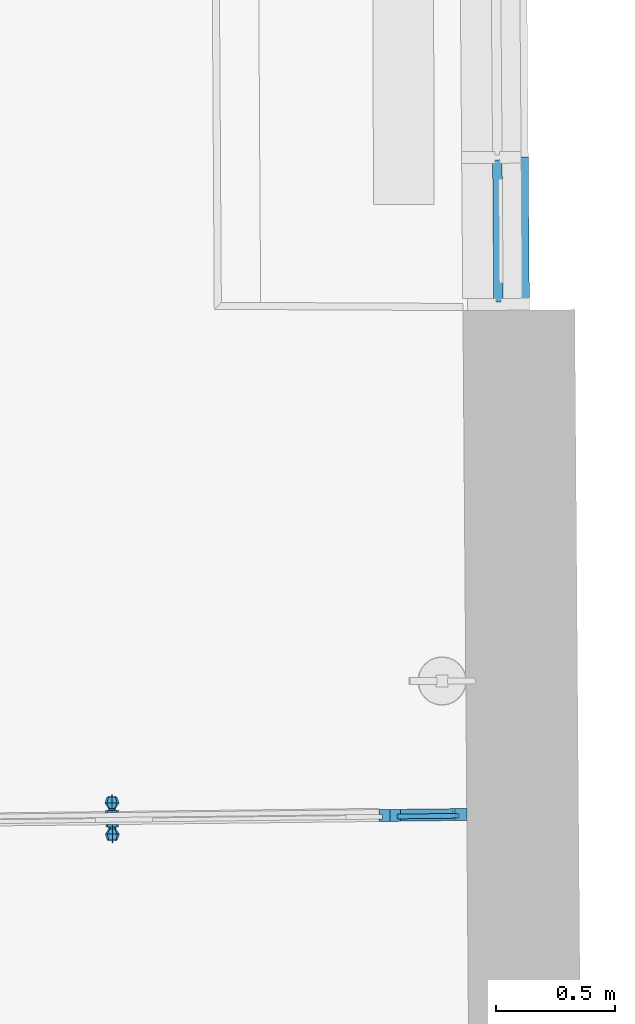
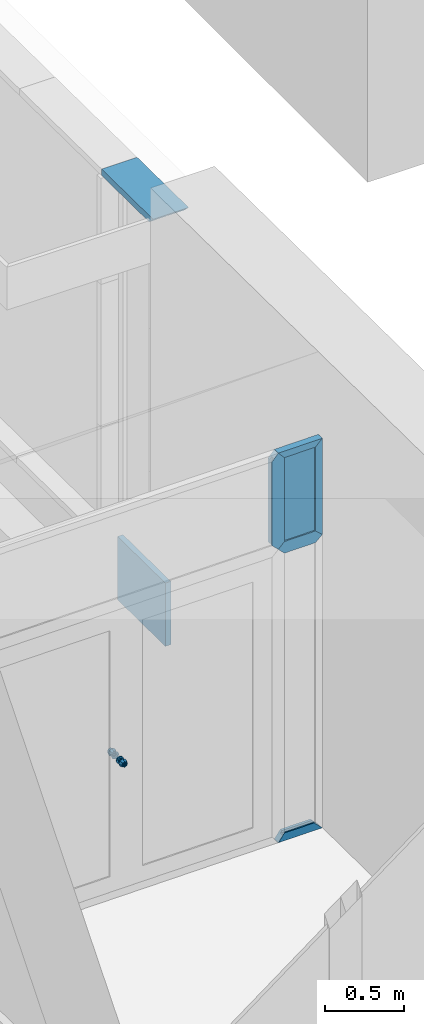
# One storey, part 158 of 196: 9 building element parts, 2 elements without a shape of their own.
"""IFC2X3 building model written with IfcOpenShell, lengths in metres."""

from ifc_helpers import new_model, entity, si_unit, converted_unit, derived_unit, money_unit, direction, frame, origin_with_axes, place, context, subcontext, project, spatial, open_shell, faceted_brep, surface_model, material, type_object, element, aggregate, save


model = new_model("IFC2X3")

# Units and contexts
model_context = context("Model", 3, precision=1e-05, world=origin_with_axes(), true_north=direction((0.0, 1.0)))
body_context = subcontext(model_context, "Body", "Model", "MODEL_VIEW")
ifc_project = project(units=[si_unit("LENGTHUNIT", "METRE"), si_unit("AREAUNIT", "SQUARE_METRE"), si_unit("VOLUMEUNIT", "CUBIC_METRE"), converted_unit("PLANEANGLEUNIT", "DEGREE", entity("IfcPlaneAngleMeasure", 0.0174532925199), si_unit("PLANEANGLEUNIT", "RADIAN"), dimensions=[0, 0, 0, 0, 0, 0, 0]), money_unit("EUR"), converted_unit("TIMEUNIT", "Year", entity("IfcTimeMeasure", 31556926.0), si_unit("TIMEUNIT", "SECOND"), dimensions=[0, 0, 1, 0, 0, 0, 0]), si_unit("MASSUNIT", "GRAM", prefix="KILO"), si_unit("THERMODYNAMICTEMPERATUREUNIT", "DEGREE_CELSIUS"), si_unit("LUMINOUSINTENSITYUNIT", "LUMEN"), si_unit("ENERGYUNIT", "JOULE", prefix="MEGA"), derived_unit("THERMALCONDUCTANCEUNIT", [(si_unit("POWERUNIT", "WATT"), 1), (si_unit("LENGTHUNIT", "METRE"), -1), (si_unit("THERMODYNAMICTEMPERATUREUNIT", "KELVIN"), -1)]), derived_unit("SPECIFICHEATCAPACITYUNIT", [(si_unit("ENERGYUNIT", "JOULE"), 1), (si_unit("MASSUNIT", "GRAM", prefix="KILO"), -1), (si_unit("THERMODYNAMICTEMPERATUREUNIT", "KELVIN"), -1)]), derived_unit("MASSDENSITYUNIT", [(si_unit("MASSUNIT", "GRAM", prefix="KILO"), 1), (si_unit("VOLUMEUNIT", "CUBIC_METRE"), -1)])], contexts=[model_context])

# Site, building, storey
site_placement = place(None, origin_with_axes())
site = spatial("IfcSite", under=ifc_project, at=site_placement, Name="Gelände", CompositionType="ELEMENT")
building_placement = place(site_placement, origin_with_axes())
building = spatial("IfcBuilding", under=site, at=building_placement, Name="Gebäude", CompositionType="ELEMENT")
storey_placement = place(building_placement, frame((0.0, 0.0, -3.0), z_axis=(0.0, 0.0, 1.0), x_axis=(1.0, 0.0, 0.0)))
storey = spatial("IfcBuildingStorey", under=building, at=storey_placement, Name="KELLERGESCHOSS", CompositionType="ELEMENT", Elevation=-3.0)

# Proxy, building element parts
building_element_proxy_type = type_object("IfcBuildingElementProxyType", Name="Fassadentyp", PredefinedType="NOTDEFINED")
proxy_1_placement = place(storey_placement, frame((-17.1540826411, 42.3223141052, 0.417602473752), z_axis=(0.0, 0.0, 1.0), x_axis=(1.0, 0.0, 0.0)))
proxy_1 = element("IfcBuildingElementProxy", 1, at=proxy_1_placement, inside=storey, type_object=building_element_proxy_type, Name="Fassade-002")
ifc_material_1 = material(Name="54_Metall, Edelstahl")
building_element_part_1_placement = place(proxy_1_placement, origin_with_axes())
building_element_part_1 = element("IfcBuildingElementPart", 2, at=building_element_part_1_placement, material=ifc_material_1, Name="54_Metall, Edelstahl", context=body_context, shape_type="SurfaceModel", body=[
    surface_model("IfcShellBasedSurfaceModel", [(-0.0410000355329, -0.0856988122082, 1.06800001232), (-0.0374737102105, -0.0877197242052, 1.07150244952), (-0.0489753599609, -0.0878543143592, 1.07626691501), (-0.0489994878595, -0.085792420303, 1.07131372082), (-0.0376865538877, -0.0856600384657, 1.06000001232), (-0.0327095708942, -0.087663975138, 1.06000001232), (-0.0339920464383, -0.0856285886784, 1.07500834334), (-0.04899935, -0.0858042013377, 1.0812249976), (-0.0604770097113, -0.0879889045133, 1.07150244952), (-0.056998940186, -0.0858860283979, 1.06800001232), (-0.0603124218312, -0.0859248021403, 1.06000001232), (-0.056998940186, -0.0858860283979, 1.05200001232), (-0.0489994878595, -0.085792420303, 1.04868630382), (-0.0410000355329, -0.0856988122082, 1.05200001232), (-0.0374737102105, -0.0877197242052, 1.04849757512), (-0.0277758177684, -0.0855558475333, 1.06000001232), (-0.0282520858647, -0.0604119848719, 1.08104297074), (-0.0492936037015, -0.0606582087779, 1.08975924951), (-0.0640066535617, -0.0859798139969, 1.07500834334), (-0.0652411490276, -0.0880446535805, 1.06000001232), (-0.0604770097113, -0.0879889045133, 1.04849757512), (-0.0489753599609, -0.0878543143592, 1.04373310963), (-0.0339920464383, -0.0856285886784, 1.0449916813), (-0.0195364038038, -0.0603099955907, 1.06000001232), (-0.0389460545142, -0.0384583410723, 1.07060661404), (-0.0495519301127, -0.0385824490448, 1.07500001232), (-0.0703351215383, -0.0609044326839, 1.08104297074), (-0.0702228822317, -0.0860525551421, 1.06000001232), (-0.0640066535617, -0.0859798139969, 1.0449916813), (-0.04899935, -0.0858042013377, 1.03877502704), (-0.0282520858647, -0.0604119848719, 1.0389570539), (-0.0345529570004, -0.0384069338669, 1.06000001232), (-0.0389462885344, -0.0384383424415, 1.07060661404), (-0.0495521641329, -0.0385624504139, 1.07500001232), (-0.0601578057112, -0.0387065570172, 1.07060661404), (-0.0790508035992, -0.0610064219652, 1.06000001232), (-0.0703351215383, -0.0609044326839, 1.0389570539), (-0.0492936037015, -0.0606582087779, 1.03024077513), (-0.0389460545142, -0.0384583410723, 1.0493934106), (-0.0345531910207, -0.0383869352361, 1.06000001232), (-0.0390384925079, -0.0305588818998, 1.07060661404), (-0.0496443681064, -0.0306829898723, 1.07500001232), (-0.0601580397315, -0.0386865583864, 1.07060661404), (-0.064550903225, -0.0387579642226, 1.06000001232), (-0.0601578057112, -0.0387065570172, 1.0493934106), (-0.0495519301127, -0.0385824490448, 1.04500001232), (-0.0389462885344, -0.0384383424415, 1.0493934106), (-0.0346453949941, -0.0305074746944, 1.06000001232), (-0.039039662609, -0.0304588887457, 1.07060661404), (-0.0496455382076, -0.0305829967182, 1.07500001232), (-0.0602502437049, -0.0308070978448, 1.07060661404), (-0.0645511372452, -0.0387379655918, 1.06000001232), (-0.0601580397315, -0.0386865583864, 1.0493934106), (-0.0495521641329, -0.0385624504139, 1.04500001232), (-0.0390384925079, -0.0305588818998, 1.0493934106), (-0.0346465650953, -0.0304074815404, 1.06000001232), (-0.0389689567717, -0.0304580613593, 1.07067732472), (-0.0496455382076, -0.0305829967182, 1.07510001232), (-0.0602514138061, -0.0307071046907, 1.07060661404), (-0.0646433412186, -0.0308585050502, 1.06000001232), (-0.0602502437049, -0.0308070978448, 1.0493934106), (-0.0496443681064, -0.0306829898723, 1.04500001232), (-0.039039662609, -0.0304588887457, 1.0493934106), (-0.0345465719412, -0.0304063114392, 1.06000001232), (-0.0306256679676, -0.0303604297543, 1.07902118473), (-0.0496455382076, -0.0305829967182, 1.08690001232), (-0.0603221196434, -0.0307079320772, 1.07067732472), (-0.0646445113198, -0.0307585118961, 1.06000001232), (-0.0602514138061, -0.0307071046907, 1.0493934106), (-0.0496455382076, -0.0305829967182, 1.04500001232), (-0.0389689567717, -0.0304580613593, 1.04932269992), (-0.0227473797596, -0.0302682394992, 1.06000001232), (-0.0305549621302, -0.0303596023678, 1.07909189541), (-0.0496455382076, -0.0305829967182, 1.08700001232), (-0.0686654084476, -0.0308055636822, 1.07902118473), (-0.0647445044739, -0.0307596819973, 1.06000001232), (-0.0603221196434, -0.0307079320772, 1.04932269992), (-0.0496455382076, -0.0305829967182, 1.04490001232), (-0.0306256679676, -0.0303604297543, 1.04097883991), (-0.0226473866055, -0.0302670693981, 1.06000001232), (-0.0305561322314, -0.0302596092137, 1.07909189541), (-0.0496467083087, -0.0304830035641, 1.08700001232), (-0.0687361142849, -0.0308063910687, 1.07909189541), (-0.0765436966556, -0.0308977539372, 1.06000001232), (-0.0686654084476, -0.0308055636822, 1.04097883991), (-0.0496455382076, -0.0305829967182, 1.03310001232), (-0.0305549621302, -0.0303596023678, 1.04090812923), (-0.0226485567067, -0.030167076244, 1.06000001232), (-0.0306719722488, -0.0203602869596, 1.07909189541), (-0.0497625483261, -0.02058368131, 1.08700001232), (-0.0687372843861, -0.0307063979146, 1.07909189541), (-0.0766436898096, -0.0308989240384, 1.06000001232), (-0.0687361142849, -0.0308063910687, 1.04090812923), (-0.0496455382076, -0.0305829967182, 1.03300001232), (-0.0305561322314, -0.0302596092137, 1.04090812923), (-0.0227643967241, -0.0202677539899, 1.06000001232), (-0.0688531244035, -0.0208070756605, 1.07909189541), (-0.0766448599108, -0.0307989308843, 1.06000001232), (-0.0687372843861, -0.0307063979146, 1.04090812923), (-0.0496467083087, -0.0304830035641, 1.03300001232), (-0.0306719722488, -0.0203602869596, 1.04090812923), (-0.0767606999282, -0.0208996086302, 1.06000001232), (-0.0688531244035, -0.0208070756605, 1.04090812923), (-0.0497625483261, -0.02058368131, 1.03300001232)], [open_shell([[[0, 1, 2, 3]], [[4, 5, 1, 0]], [[1, 6, 7, 2]], [[3, 2, 8, 9]], [[3, 9, 10, 11, 12, 13, 4, 0]], [[13, 14, 5, 4]], [[5, 15, 6, 1]], [[6, 16, 17, 7]], [[2, 7, 18, 8]], [[9, 8, 19, 10]], [[10, 19, 20, 11]], [[11, 20, 21, 12]], [[12, 21, 14, 13]], [[14, 22, 15, 5]], [[15, 23, 16, 6]], [[16, 24, 25, 17]], [[7, 17, 26, 18]], [[8, 18, 27, 19]], [[19, 27, 28, 20]], [[20, 28, 29, 21]], [[21, 29, 22, 14]], [[22, 30, 23, 15]], [[23, 31, 24, 16]], [[24, 32, 33, 25]], [[17, 25, 34, 26]], [[18, 26, 35, 27]], [[27, 35, 36, 28]], [[28, 36, 37, 29]], [[29, 37, 30, 22]], [[30, 38, 31, 23]], [[31, 39, 32, 24]], [[32, 40, 41, 33]], [[25, 33, 42, 34]], [[26, 34, 43, 35]], [[35, 43, 44, 36]], [[36, 44, 45, 37]], [[37, 45, 38, 30]], [[38, 46, 39, 31]], [[39, 47, 40, 32]], [[40, 48, 49, 41]], [[33, 41, 50, 42]], [[34, 42, 51, 43]], [[43, 51, 52, 44]], [[44, 52, 53, 45]], [[45, 53, 46, 38]], [[46, 54, 47, 39]], [[47, 55, 48, 40]], [[48, 56, 57, 49]], [[41, 49, 58, 50]], [[42, 50, 59, 51]], [[51, 59, 60, 52]], [[52, 60, 61, 53]], [[53, 61, 54, 46]], [[54, 62, 55, 47]], [[55, 63, 56, 48]], [[56, 64, 65, 57]], [[49, 57, 66, 58]], [[50, 58, 67, 59]], [[59, 67, 68, 60]], [[60, 68, 69, 61]], [[61, 69, 62, 54]], [[62, 70, 63, 55]], [[63, 71, 64, 56]], [[64, 72, 73, 65]], [[57, 65, 74, 66]], [[58, 66, 75, 67]], [[67, 75, 76, 68]], [[68, 76, 77, 69]], [[69, 77, 70, 62]], [[70, 78, 71, 63]], [[71, 79, 72, 64]], [[72, 80, 81, 73]], [[65, 73, 82, 74]], [[66, 74, 83, 75]], [[75, 83, 84, 76]], [[76, 84, 85, 77]], [[77, 85, 78, 70]], [[78, 86, 79, 71]], [[79, 87, 80, 72]], [[80, 88, 89, 81]], [[73, 81, 90, 82]], [[74, 82, 91, 83]], [[83, 91, 92, 84]], [[84, 92, 93, 85]], [[85, 93, 86, 78]], [[86, 94, 87, 79]], [[87, 95, 88, 80]], [[81, 89, 96, 90]], [[82, 90, 97, 91]], [[91, 97, 98, 92]], [[92, 98, 99, 93]], [[93, 99, 94, 86]], [[94, 100, 95, 87]], [[90, 96, 101, 97]], [[97, 101, 102, 98]], [[98, 102, 103, 99]], [[99, 103, 100, 94]]])]),
    faceted_brep([(-0.0564236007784, -0.0858792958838, 1.05257539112), (-0.059498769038, -0.0859152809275, 1.06000001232), (-0.0564236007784, -0.0858792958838, 1.06742463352), (-0.0489994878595, -0.085792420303, 1.07050001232), (-0.0415753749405, -0.0857055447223, 1.06742463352), (-0.0385002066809, -0.0856695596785, 1.06000001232), (-0.0415753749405, -0.0857055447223, 1.05257539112), (-0.0489994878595, -0.085792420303, 1.04950001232), (-0.0564060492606, -0.087379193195, 1.05257539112), (-0.0594812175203, -0.0874151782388, 1.06000001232), (-0.0564060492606, -0.087379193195, 1.06742463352), (-0.0489819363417, -0.0872923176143, 1.07050001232), (-0.0415578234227, -0.0872054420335, 1.06742463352), (-0.0384826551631, -0.0871694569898, 1.06000001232), (-0.0415578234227, -0.0872054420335, 1.05257539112), (-0.0489819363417, -0.0872923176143, 1.04950001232)], [[[0, 1, 2, 3, 4, 5, 6, 7]], [[0, 8, 9, 1]], [[1, 9, 10, 2]], [[2, 10, 11, 3]], [[3, 11, 12, 4]], [[4, 12, 13, 5]], [[5, 13, 14, 6]], [[6, 14, 15, 7]], [[7, 15, 8, 0]], [[8, 15, 14, 13, 12, 11, 10, 9]]]),
    faceted_brep([(-0.0504818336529, -0.087309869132, 1.05000001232), (-0.0474820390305, -0.0872747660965, 1.05000001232), (-0.0473993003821, -0.0943453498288, 1.05292894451), (-0.0503990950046, -0.0943804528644, 1.05292894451), (-0.0504818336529, -0.087309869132, 1.07000001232), (-0.0474820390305, -0.0872747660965, 1.07000001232), (-0.0473993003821, -0.0943453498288, 1.06707108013), (-0.0473650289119, -0.0972740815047, 1.06000001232), (-0.0503648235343, -0.0973091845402, 1.06000001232), (-0.0503990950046, -0.0943804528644, 1.06707108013)], [[[0, 1, 2, 3]], [[4, 5, 1, 0]], [[1, 5, 6, 7, 2]], [[3, 2, 7, 8]], [[0, 3, 8, 9, 4]], [[9, 6, 5, 4]], [[8, 7, 6, 9]]]),
    surface_model("IfcShellBasedSurfaceModel", [(-0.0431112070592, 0.0947152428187, 1.06800001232), (-0.0511106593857, 0.0946216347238, 1.07131372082), (-0.0511347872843, 0.09668352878, 1.07626691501), (-0.0396331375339, 0.0968181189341, 1.07150244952), (-0.0397977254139, 0.0947540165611, 1.06000001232), (-0.0431112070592, 0.0947152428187, 1.05200001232), (-0.0511106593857, 0.0946216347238, 1.04868630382), (-0.0591101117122, 0.094528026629, 1.05200001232), (-0.0624235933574, 0.0944892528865, 1.06000001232), (-0.0591101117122, 0.094528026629, 1.06800001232), (-0.0626364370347, 0.096548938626, 1.07150244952), (-0.0511107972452, 0.0946334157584, 1.0812249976), (-0.0361034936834, 0.0948090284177, 1.07500834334), (-0.0348689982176, 0.0968738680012, 1.06000001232), (-0.0396331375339, 0.0968181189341, 1.04849757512), (-0.0511347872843, 0.09668352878, 1.04373310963), (-0.0626364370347, 0.096548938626, 1.04849757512), (-0.067400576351, 0.0964931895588, 1.06000001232), (-0.0661181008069, 0.0944578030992, 1.07500834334), (-0.0508165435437, 0.0694874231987, 1.08975924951), (-0.0297750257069, 0.0697336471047, 1.08104297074), (-0.0298872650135, 0.0948817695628, 1.06000001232), (-0.0361034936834, 0.0948090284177, 1.0449916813), (-0.0511107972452, 0.0946334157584, 1.03877502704), (-0.0661181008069, 0.0944578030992, 1.0449916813), (-0.0723343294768, 0.094385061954, 1.06000001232), (-0.0718580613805, 0.0692411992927, 1.08104297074), (-0.0505582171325, 0.0474116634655, 1.07500001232), (-0.0399523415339, 0.047535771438, 1.07060661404), (-0.021059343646, 0.069835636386, 1.06000001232), (-0.0297750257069, 0.0697336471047, 1.0389570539), (-0.0508165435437, 0.0694874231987, 1.03024077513), (-0.0718580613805, 0.0692411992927, 1.0389570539), (-0.0805737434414, 0.0691392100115, 1.06000001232), (-0.061164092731, 0.0472875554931, 1.07060661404), (-0.0505579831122, 0.0473916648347, 1.07500001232), (-0.0399521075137, 0.0475157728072, 1.07060661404), (-0.0355592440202, 0.0475871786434, 1.06000001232), (-0.0399523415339, 0.047535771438, 1.0493934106), (-0.0505582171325, 0.0474116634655, 1.04500001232), (-0.061164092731, 0.0472875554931, 1.0493934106), (-0.0655571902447, 0.0472361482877, 1.06000001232), (-0.0611638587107, 0.0472675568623, 1.07060661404), (-0.0504657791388, 0.0395122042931, 1.07500001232), (-0.0398599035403, 0.0396363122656, 1.07060661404), (-0.03555901, 0.0475671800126, 1.06000001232), (-0.0399521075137, 0.0475157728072, 1.0493934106), (-0.0505579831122, 0.0473916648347, 1.04500001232), (-0.0611638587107, 0.0472675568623, 1.0493934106), (-0.0655569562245, 0.0472161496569, 1.06000001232), (-0.0610716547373, 0.0393880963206, 1.07060661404), (-0.0504646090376, 0.039412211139, 1.07500001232), (-0.0398587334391, 0.0395363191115, 1.07060661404), (-0.0354668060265, 0.0396877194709, 1.06000001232), (-0.0398599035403, 0.0396363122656, 1.0493934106), (-0.0504657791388, 0.0395122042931, 1.04500001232), (-0.0610716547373, 0.0393880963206, 1.0493934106), (-0.065464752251, 0.0393366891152, 1.06000001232), (-0.0610704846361, 0.0392881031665, 1.07060661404), (-0.0504646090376, 0.039412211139, 1.07510001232), (-0.0397880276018, 0.039537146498, 1.07067732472), (-0.0354656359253, 0.0395877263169, 1.06000001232), (-0.0398587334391, 0.0395363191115, 1.0493934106), (-0.0504646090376, 0.039412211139, 1.04500001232), (-0.0610704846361, 0.0392881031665, 1.0493934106), (-0.0654635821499, 0.0392366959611, 1.06000001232), (-0.0611411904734, 0.0392872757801, 1.07067732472), (-0.0504646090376, 0.039412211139, 1.08690001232), (-0.0314447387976, 0.039634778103, 1.07902118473), (-0.0353656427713, 0.0395888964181, 1.06000001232), (-0.0397880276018, 0.039537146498, 1.04932269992), (-0.0504646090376, 0.039412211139, 1.04490001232), (-0.0611411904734, 0.0392872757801, 1.04932269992), (-0.0655635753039, 0.03923552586, 1.06000001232), (-0.0694844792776, 0.039189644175, 1.07902118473), (-0.0504646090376, 0.039412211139, 1.08700001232), (-0.0313740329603, 0.0396356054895, 1.07909189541), (-0.0235664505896, 0.039726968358, 1.06000001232), (-0.0314447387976, 0.039634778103, 1.04097883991), (-0.0504646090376, 0.039412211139, 1.03310001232), (-0.0694844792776, 0.039189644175, 1.04097883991), (-0.0773627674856, 0.03909745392, 1.06000001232), (-0.0695551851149, 0.0391888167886, 1.07909189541), (-0.0504634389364, 0.0393122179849, 1.08700001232), (-0.0313728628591, 0.0395356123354, 1.07909189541), (-0.0234664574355, 0.0397281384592, 1.06000001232), (-0.0313740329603, 0.0396356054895, 1.04090812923), (-0.0504646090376, 0.039412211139, 1.03300001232), (-0.0695551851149, 0.0391888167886, 1.04090812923), (-0.0774627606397, 0.0390962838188, 1.06000001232), (-0.0695540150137, 0.0390888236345, 1.07909189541), (-0.050347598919, 0.0294128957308, 1.08700001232), (-0.0312570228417, 0.0296362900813, 1.07909189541), (-0.0234652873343, 0.0396281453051, 1.06000001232), (-0.0313728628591, 0.0395356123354, 1.04090812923), (-0.0504634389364, 0.0393122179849, 1.03300001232), (-0.0695540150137, 0.0390888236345, 1.04090812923), (-0.0774615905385, 0.0389962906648, 1.06000001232), (-0.0694381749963, 0.0291895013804, 1.07909189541), (-0.023349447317, 0.029728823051, 1.06000001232), (-0.0312570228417, 0.0296362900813, 1.04090812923), (-0.050347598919, 0.0294128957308, 1.03300001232), (-0.0694381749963, 0.0291895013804, 1.04090812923), (-0.0773457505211, 0.0290969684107, 1.06000001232)], [open_shell([[[0, 1, 2, 3]], [[1, 0, 4, 5, 6, 7, 8, 9]], [[1, 9, 10, 2]], [[3, 2, 11, 12]], [[4, 0, 3, 13]], [[5, 4, 13, 14]], [[6, 5, 14, 15]], [[7, 6, 15, 16]], [[8, 7, 16, 17]], [[9, 8, 17, 10]], [[2, 10, 18, 11]], [[12, 11, 19, 20]], [[13, 3, 12, 21]], [[14, 13, 21, 22]], [[15, 14, 22, 23]], [[16, 15, 23, 24]], [[17, 16, 24, 25]], [[10, 17, 25, 18]], [[11, 18, 26, 19]], [[20, 19, 27, 28]], [[21, 12, 20, 29]], [[22, 21, 29, 30]], [[23, 22, 30, 31]], [[24, 23, 31, 32]], [[25, 24, 32, 33]], [[18, 25, 33, 26]], [[19, 26, 34, 27]], [[28, 27, 35, 36]], [[29, 20, 28, 37]], [[30, 29, 37, 38]], [[31, 30, 38, 39]], [[32, 31, 39, 40]], [[33, 32, 40, 41]], [[26, 33, 41, 34]], [[27, 34, 42, 35]], [[36, 35, 43, 44]], [[37, 28, 36, 45]], [[38, 37, 45, 46]], [[39, 38, 46, 47]], [[40, 39, 47, 48]], [[41, 40, 48, 49]], [[34, 41, 49, 42]], [[35, 42, 50, 43]], [[44, 43, 51, 52]], [[45, 36, 44, 53]], [[46, 45, 53, 54]], [[47, 46, 54, 55]], [[48, 47, 55, 56]], [[49, 48, 56, 57]], [[42, 49, 57, 50]], [[43, 50, 58, 51]], [[52, 51, 59, 60]], [[53, 44, 52, 61]], [[54, 53, 61, 62]], [[55, 54, 62, 63]], [[56, 55, 63, 64]], [[57, 56, 64, 65]], [[50, 57, 65, 58]], [[51, 58, 66, 59]], [[60, 59, 67, 68]], [[61, 52, 60, 69]], [[62, 61, 69, 70]], [[63, 62, 70, 71]], [[64, 63, 71, 72]], [[65, 64, 72, 73]], [[58, 65, 73, 66]], [[59, 66, 74, 67]], [[68, 67, 75, 76]], [[69, 60, 68, 77]], [[70, 69, 77, 78]], [[71, 70, 78, 79]], [[72, 71, 79, 80]], [[73, 72, 80, 81]], [[66, 73, 81, 74]], [[67, 74, 82, 75]], [[76, 75, 83, 84]], [[77, 68, 76, 85]], [[78, 77, 85, 86]], [[79, 78, 86, 87]], [[80, 79, 87, 88]], [[81, 80, 88, 89]], [[74, 81, 89, 82]], [[75, 82, 90, 83]], [[84, 83, 91, 92]], [[85, 76, 84, 93]], [[86, 85, 93, 94]], [[87, 86, 94, 95]], [[88, 87, 95, 96]], [[89, 88, 96, 97]], [[82, 89, 97, 90]], [[83, 90, 98, 91]], [[93, 84, 92, 99]], [[94, 93, 99, 100]], [[95, 94, 100, 101]], [[96, 95, 101, 102]], [[97, 96, 102, 103]], [[90, 97, 103, 98]]])]),
    faceted_brep([(-0.0585347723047, 0.0945347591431, 1.05257539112), (-0.0511106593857, 0.0946216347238, 1.04950001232), (-0.0436865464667, 0.0947085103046, 1.05257539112), (-0.0406113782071, 0.0947444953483, 1.06000001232), (-0.0436865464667, 0.0947085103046, 1.06742463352), (-0.0511106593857, 0.0946216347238, 1.07050001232), (-0.0585347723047, 0.0945347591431, 1.06742463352), (-0.0616099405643, 0.0944987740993, 1.06000001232), (-0.0585523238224, 0.0960346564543, 1.05257539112), (-0.0511282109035, 0.096121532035, 1.04950001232), (-0.0437040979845, 0.0962084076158, 1.05257539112), (-0.0406289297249, 0.0962443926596, 1.06000001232), (-0.0437040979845, 0.0962084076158, 1.06742463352), (-0.0511282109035, 0.096121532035, 1.07050001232), (-0.0585523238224, 0.0960346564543, 1.06742463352), (-0.0616274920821, 0.0959986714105, 1.06000001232)], [[[0, 1, 2, 3, 4, 5, 6, 7]], [[1, 0, 8, 9]], [[2, 1, 9, 10]], [[3, 2, 10, 11]], [[4, 3, 11, 12]], [[5, 4, 12, 13]], [[6, 5, 13, 14]], [[7, 6, 14, 15]], [[0, 7, 15, 8]], [[8, 15, 14, 13, 12, 11, 10, 9]]]),
    faceted_brep([(-0.0526281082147, 0.0961039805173, 1.05000001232), (-0.052710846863, 0.10317456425, 1.05292894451), (-0.0497110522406, 0.103209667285, 1.05292894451), (-0.0496283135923, 0.0961390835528, 1.05000001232), (-0.0526281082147, 0.0961039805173, 1.07000001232), (-0.052710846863, 0.10317456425, 1.06707108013), (-0.0527451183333, 0.106103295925, 1.06000001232), (-0.0497453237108, 0.106138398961, 1.06000001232), (-0.0497110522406, 0.103209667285, 1.06707108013), (-0.0496283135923, 0.0961390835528, 1.07000001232)], [[[0, 1, 2, 3]], [[0, 4, 5, 6, 1]], [[1, 6, 7, 2]], [[3, 2, 7, 8, 9]], [[4, 0, 3, 9]], [[5, 4, 9, 8]], [[6, 5, 8, 7]]]),
])
ifc_material_2 = material(Name="45_Glas, Normalglas")
building_element_part_2_placement = place(proxy_1_placement, origin_with_axes())
building_element_part_2 = element("IfcBuildingElementPart", 3, at=building_element_part_2_placement, material=ifc_material_2, Name="45_Glas, Normalglas", context=body_context, shape_type="Brep", body=[
    faceted_brep([(1.40511022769, 0.0264430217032, 2.96999995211), (1.14659813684, 0.0234179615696, 2.96999995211), (1.14683215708, 0.00341933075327, 2.96999995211), (1.40534424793, 0.00644439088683, 2.96999995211), (1.40511022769, 0.0264430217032, 2.29267449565), (1.14659813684, 0.0234179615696, 2.29267449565), (1.14683215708, 0.00341933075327, 2.29267449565), (1.40534424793, 0.00644439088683, 2.29267449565)], [[[0, 1, 2, 3]], [[0, 4, 5, 1]], [[1, 5, 6, 2]], [[3, 2, 6, 7]], [[4, 0, 3, 7]], [[5, 4, 7, 6]]]),
])
ifc_material_3 = material(Name="53_Metall, Aluminium")
building_element_part_3_placement = place(proxy_1_placement, origin_with_axes())
building_element_part_3 = element("IfcBuildingElementPart", 4, at=building_element_part_3_placement, material=ifc_material_3, Name="53_Metall, Aluminium", context=body_context, shape_type="Brep", body=[
    faceted_brep([(1.39511091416, 0.0263260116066, 0.045), (1.3953449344, 0.00632738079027, 0.045), (1.38034596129, 0.0061518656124, 0.06), (1.38046297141, -0.00384744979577, 0.06), (1.44045886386, -0.00314538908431, 0.0), (1.43987381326, 0.0468511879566, 0.0), (1.37987792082, 0.0461491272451, 0.06), (1.38011194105, 0.0261504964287, 0.06), (1.15034788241, 0.0234618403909, 0.045), (1.15058190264, 0.00346320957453, 0.045), (1.16183113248, 0.00359484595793, 0.06), (1.1619481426, -0.00640446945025, 0.06), (1.11695122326, -0.00693101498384, 0.0), (1.11636617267, 0.043065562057, 0.0), (1.161363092, 0.0435921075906, 0.06), (1.16159711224, 0.0235934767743, 0.06)], [[[0, 1, 2, 3, 4, 5, 6, 7]], [[1, 0, 8, 9]], [[10, 2, 1, 9]], [[2, 10, 11, 3]], [[4, 3, 11, 12]], [[5, 4, 12, 13]], [[6, 5, 13, 14]], [[15, 7, 6, 14]], [[0, 7, 15, 8]], [[8, 15, 14, 13, 12, 11, 10, 9]]]),
])
building_element_part_4_placement = place(proxy_1_placement, origin_with_axes())
building_element_part_4 = element("IfcBuildingElementPart", 5, at=building_element_part_4_placement, material=ifc_material_3, Name="53_Metall, Aluminium", context=body_context, shape_type="Brep", body=[
    faceted_brep([(1.40511022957, 0.0264430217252, 2.96999995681), (1.40534424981, 0.00644439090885, 2.96999995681), (1.3903452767, 0.00626887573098, 2.95499995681), (1.39046228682, -0.00373043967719, 2.95499995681), (1.44045886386, -0.00314538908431, 3.00499995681), (1.43987381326, 0.0468511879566, 3.00499995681), (1.38987723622, 0.0462661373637, 2.95499995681), (1.39011125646, 0.0262675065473, 2.95499995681), (1.40511022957, 0.0264430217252, 2.29417449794), (1.40534424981, 0.00644439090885, 2.29417449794), (1.3903452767, 0.00626887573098, 2.30767449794), (1.39046228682, -0.00373043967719, 2.30767449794), (1.44045886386, -0.00314538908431, 2.26267449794), (1.43987381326, 0.0468511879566, 2.26267449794), (1.38987723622, 0.0462661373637, 2.30767449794), (1.39011125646, 0.0262675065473, 2.30767449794)], [[[0, 1, 2, 3, 4, 5, 6, 7]], [[1, 0, 8, 9]], [[10, 2, 1, 9]], [[2, 10, 11, 3]], [[12, 4, 3, 11]], [[13, 5, 4, 12]], [[14, 6, 5, 13]], [[15, 7, 6, 14]], [[0, 7, 15, 8]], [[8, 15, 14, 13, 12, 11, 10, 9]]]),
])
building_element_part_5_placement = place(proxy_1_placement, origin_with_axes())
building_element_part_5 = element("IfcBuildingElementPart", 6, at=building_element_part_5_placement, material=ifc_material_3, Name="53_Metall, Aluminium", context=body_context, shape_type="Brep", body=[
    faceted_brep([(1.40511022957, 0.0264430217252, 2.96999995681), (1.39011125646, 0.0262675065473, 2.95499995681), (1.38987723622, 0.0462661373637, 2.95499995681), (1.43987381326, 0.0468511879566, 3.00499995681), (1.44045886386, -0.00314538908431, 3.00499995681), (1.39046228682, -0.00373043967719, 2.95499995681), (1.3903452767, 0.00626887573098, 2.95499995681), (1.40534424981, 0.00644439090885, 2.96999995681), (1.14809803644, 0.0234355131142, 2.96999995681), (1.16159711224, 0.0235934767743, 2.95499995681), (1.161363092, 0.0435921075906, 2.95499995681), (1.11636617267, 0.043065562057, 3.00499995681), (1.11695122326, -0.00693101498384, 3.00499995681), (1.1619481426, -0.00640446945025, 2.95499995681), (1.16183113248, 0.00359484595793, 2.95499995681), (1.14833205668, 0.00343688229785, 2.96999995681)], [[[0, 1, 2, 3, 4, 5, 6, 7]], [[0, 8, 9, 1]], [[9, 10, 2, 1]], [[2, 10, 11, 3]], [[3, 11, 12, 4]], [[4, 12, 13, 5]], [[6, 5, 13, 14]], [[14, 15, 7, 6]], [[7, 15, 8, 0]], [[8, 15, 14, 13, 12, 11, 10, 9]]]),
])
building_element_part_6_placement = place(proxy_1_placement, origin_with_axes())
building_element_part_6 = element("IfcBuildingElementPart", 7, at=building_element_part_6_placement, material=ifc_material_3, Name="53_Metall, Aluminium", context=body_context, shape_type="Brep", body=[
    faceted_brep([(1.14659813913, 0.0234179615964, 2.97166662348), (1.16159711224, 0.0235934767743, 2.95499995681), (1.161363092, 0.0435921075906, 2.95499995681), (1.11636617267, 0.043065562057, 3.00499995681), (1.11695122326, -0.00693101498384, 3.00499995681), (1.1619481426, -0.00640446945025, 2.95499995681), (1.16183113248, 0.00359484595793, 2.95499995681), (1.14683215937, 0.00341933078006, 2.97166662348), (1.14659813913, 0.0234179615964, 2.29267449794), (1.16159711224, 0.0235934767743, 2.30767449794), (1.161363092, 0.0435921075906, 2.30767449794), (1.11636617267, 0.043065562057, 2.26267449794), (1.07136925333, 0.0425390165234, 2.30767449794), (1.07136925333, 0.0425390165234, 2.95499995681), (1.07160327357, 0.0225403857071, 2.95499995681), (1.08660224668, 0.0227159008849, 2.97166662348), (1.08683626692, 0.0027172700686, 2.97166662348), (1.0718372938, 0.00254175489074, 2.95499995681), (1.07195430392, -0.00745756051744, 2.95499995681), (1.11695122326, -0.00693101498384, 2.26267449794), (1.1619481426, -0.00640446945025, 2.30767449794), (1.07195430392, -0.00745756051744, 2.30767449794), (1.16183113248, 0.00359484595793, 2.30767449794), (1.14683215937, 0.00341933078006, 2.29267449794), (1.0718372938, 0.00254175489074, 2.30767449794), (1.08683626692, 0.0027172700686, 2.29267449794), (1.08660224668, 0.0227159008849, 2.29267449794), (1.07160327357, 0.0225403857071, 2.30767449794)], [[[0, 1, 2, 3, 4, 5, 6, 7]], [[1, 0, 8, 9]], [[1, 9, 10, 2]], [[11, 12, 13, 3, 2, 10]], [[3, 13, 14, 15, 16, 17, 18, 4]], [[19, 20, 5, 4, 18, 21]], [[22, 6, 5, 20]], [[7, 6, 22, 23]], [[0, 7, 23, 8]], [[23, 22, 20, 19, 11, 10, 9, 8]], [[21, 24, 25, 26, 27, 12, 11, 19]], [[14, 13, 12, 27]], [[14, 27, 26, 15]], [[15, 26, 25, 16]], [[17, 16, 25, 24]], [[24, 21, 18, 17]]]),
])
building_element_part_7_placement = place(proxy_1_placement, origin_with_axes())
building_element_part_7 = element("IfcBuildingElementPart", 8, at=building_element_part_7_placement, material=ifc_material_3, Name="53_Metall, Aluminium", context=body_context, shape_type="Brep", body=[
    faceted_brep([(1.40677678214, 0.0264625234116, 2.23267449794), (1.39011125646, 0.0262675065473, 2.21767449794), (1.38987723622, 0.0462661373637, 2.21767449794), (1.43987381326, 0.0468511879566, 2.26267449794), (1.44045886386, -0.00314538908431, 2.26267449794), (1.39046228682, -0.00373043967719, 2.21767449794), (1.3903452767, 0.00626887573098, 2.21767449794), (1.40701080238, 0.00646389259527, 2.23267449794), (1.14659813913, 0.0234179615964, 2.23267449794), (1.16159711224, 0.0235934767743, 2.21767449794), (1.161363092, 0.0435921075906, 2.21767449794), (1.11636617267, 0.043065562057, 2.26267449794), (1.161363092, 0.0435921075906, 2.30767449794), (1.38987723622, 0.0462661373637, 2.30767449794), (1.39011125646, 0.0262675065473, 2.30767449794), (1.40677678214, 0.0264625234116, 2.29267449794), (1.40701080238, 0.00646389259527, 2.29267449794), (1.3903452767, 0.00626887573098, 2.30767449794), (1.39046228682, -0.00373043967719, 2.30767449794), (1.11695122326, -0.00693101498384, 2.26267449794), (1.1619481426, -0.00640446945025, 2.21767449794), (1.1619481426, -0.00640446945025, 2.30767449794), (1.16183113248, 0.00359484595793, 2.21767449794), (1.14683215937, 0.00341933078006, 2.23267449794), (1.16183113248, 0.00359484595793, 2.30767449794), (1.14683215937, 0.00341933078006, 2.29267449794), (1.14659813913, 0.0234179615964, 2.29267449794), (1.16159711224, 0.0235934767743, 2.30767449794)], [[[0, 1, 2, 3, 4, 5, 6, 7]], [[1, 0, 8, 9]], [[1, 9, 10, 2]], [[11, 12, 13, 3, 2, 10]], [[3, 13, 14, 15, 16, 17, 18, 4]], [[19, 20, 5, 4, 18, 21]], [[22, 6, 5, 20]], [[7, 6, 22, 23]], [[0, 7, 23, 8]], [[23, 22, 20, 19, 11, 10, 9, 8]], [[21, 24, 25, 26, 27, 12, 11, 19]], [[14, 13, 12, 27]], [[14, 27, 26, 15]], [[15, 26, 25, 16]], [[17, 16, 25, 24]], [[24, 21, 18, 17]]]),
])
aggregate(proxy_1, [building_element_part_1, building_element_part_2, building_element_part_3, building_element_part_4, building_element_part_5, building_element_part_6, building_element_part_7])

proxy_2_placement = place(storey_placement, frame((-15.5832344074, 44.7839609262, 0.421025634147), z_axis=(0.0, 0.0, 1.0), x_axis=(1.0, 0.0, 0.0)))
proxy_2 = element("IfcBuildingElementProxy", 9, at=proxy_2_placement, inside=storey, type_object=building_element_proxy_type, Name="Fassade-002")
building_element_part_8_placement = place(proxy_2_placement, origin_with_axes())
building_element_part_8 = element("IfcBuildingElementPart", 10, at=building_element_part_8_placement, material=ifc_material_2, Name="45_Glas, Normalglas", context=body_context, shape_type="Brep", body=[
    faceted_brep([(-0.0224088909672, 0.311134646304, 0.523501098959), (-0.0177834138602, -0.286444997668, 0.523501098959), (0.0222153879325, -0.286135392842, 0.523501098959), (0.0175899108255, 0.31144425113, 0.523501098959), (-0.0224088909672, 0.311134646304, 0.0349999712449), (-0.0177834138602, -0.286444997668, 0.0349999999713), (0.0222153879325, -0.286135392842, 0.0349999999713), (0.0175899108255, 0.31144425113, 0.0349999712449)], [[[0, 1, 2, 3]], [[0, 4, 5, 1]], [[1, 5, 6, 2]], [[3, 2, 6, 7]], [[4, 0, 3, 7]], [[5, 4, 7, 6]]]),
])
building_element_part_9_placement = place(proxy_2_placement, origin_with_axes())
building_element_part_9 = element("IfcBuildingElementPart", 11, at=building_element_part_9_placement, material=ifc_material_3, Name="53_Metall, Aluminium", context=body_context, shape_type="Brep", body=[
    faceted_brep([(-0.0124865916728, 0.32121174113, 3.35397436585), (-0.0124865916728, 0.32121174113, 3.33897436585), (-0.132482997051, 0.32028292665, 3.33897436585), (-0.132482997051, 0.32028292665, 3.38897436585), (0.127509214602, 0.322295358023, 3.38897436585), (0.127509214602, 0.322295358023, 3.33897436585), (0.00751280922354, 0.321366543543, 3.33897436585), (0.00751280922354, 0.321366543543, 3.35397436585), (-0.00778371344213, -0.286367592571, 3.35397436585), (-0.00789981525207, -0.271368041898, 3.33897436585), (-0.12789622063, -0.272296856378, 3.33897436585), (-0.127509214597, -0.322295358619, 3.38897436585), (0.132482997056, -0.320282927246, 3.38897436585), (0.132095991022, -0.270284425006, 3.33897436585), (0.0120995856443, -0.271213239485, 3.33897436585), (0.0122156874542, -0.286212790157, 3.35397436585)], [[[0, 1, 2, 3, 4, 5, 6, 7]], [[0, 8, 9, 1]], [[9, 10, 2, 1]], [[2, 10, 11, 3]], [[3, 11, 12, 4]], [[4, 12, 13, 5]], [[6, 5, 13, 14]], [[14, 15, 7, 6]], [[7, 15, 8, 0]], [[8, 15, 14, 13, 12, 11, 10, 9]]]),
])
aggregate(proxy_2, [building_element_part_8, building_element_part_9])

save(model, "model.ifc")
